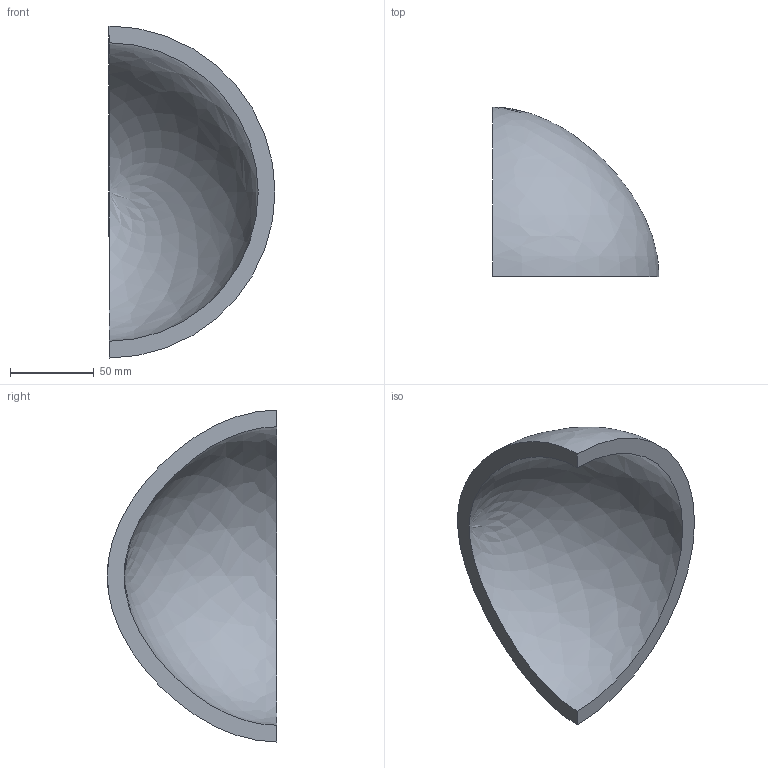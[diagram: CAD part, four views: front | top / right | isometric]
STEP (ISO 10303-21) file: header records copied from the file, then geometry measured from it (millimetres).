
FILE_DESCRIPTION(('CATIA V5 STEP Exchange'),'2;1');
FILE_NAME('C:\_Andres\UNIVERSIDAD\IQS\ASIGNATURAS\DAO\EXF\EXF-16172c\2inicio\Altirriba_Cusco_Ej10_v1.stp','2017-03-05T22:31:07+00:00',('none'),('none'),'CATIA Version 5-6 Release 2014 SP1 HF18','CATIA V5 STEP AP203','none');
FILE_SCHEMA(('CONFIG_CONTROL_DESIGN'));
Length unit declared in the file: millimetre
Products named in the file (1): Altirriba_Cusco_Ej10_v1
Bounding box: 99 x 101 x 198 mm (x, y, z)
Volume: 268232 mm3; surface area: 59623.7 mm2
Topology: 1 solids, 1 shells, 4 faces, 10 edges, 6 vertices
Faces by surface type: revolution 2, plane 2
Entity records: 236 total; most frequent: CARTESIAN_POINT 114, ORIENTED_EDGE 16, DIRECTION 10, EDGE_CURVE 8, B_SPLINE_CURVE_WITH_KNOTS 6, VERTEX_POINT 6, AXIS2_PLACEMENT_3D 5, ADVANCED_FACE 4
